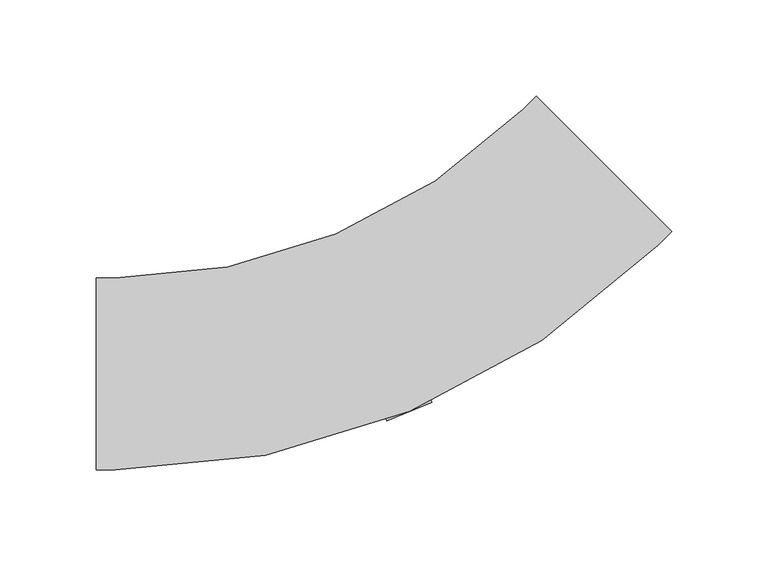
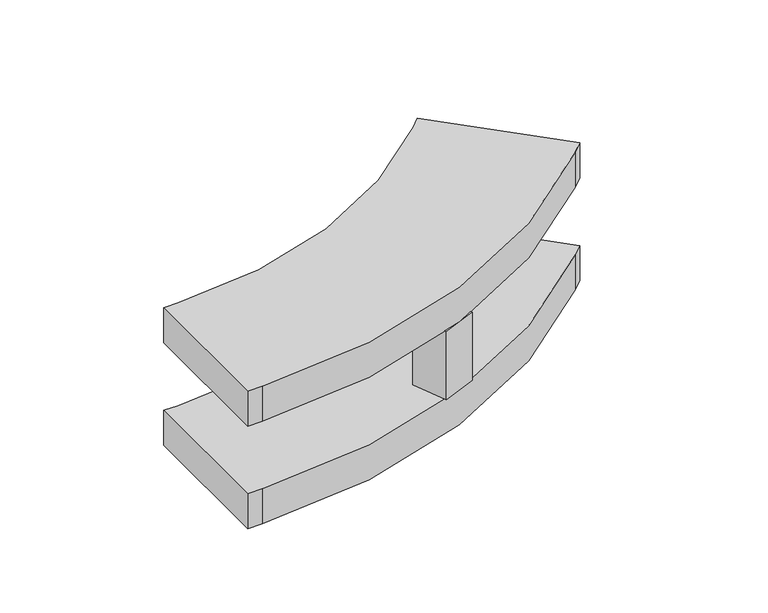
"""IFC4 building model written with IfcOpenShell, lengths in millimetres: cable carrier fitting geometry, ADSK_Поворот вертикальный внутренний_Лестничный лоток : Радиус 300 мм."""

from ifc_helpers import new_model, si_unit, point, frame, frame_2d, origin, place, context, project, spatial, polyline, circle_curve, trimmed, segment, composite_curve, outline, extrude, source, transform, mapped, element, save


def cable_carrier_fitting_9748d520(model_context):
    return source(origin(), model_context, "Body", "SweptSolid", [
        extrude(outline(polyline([(10.111737, 8.7748067), (19.8318962, -14.6917334), (-3.6346439, -24.4118926), (-13.3548031, -0.9453525), (10.111737, 8.7748067)])), frame((0.0, 0.0, -24.6), z_axis=(0.0, 0.0, 1.0), x_axis=(1.0, 0.0, 0.0)), (0.0, 0.0, 1.0), 49.2),
        extrude(outline(composite_curve([segment(polyline([(-154.9747468, -50.0), (-154.9747468, 50.0), (-144.9747468, 50.0)]), True, "CONTINUOUS"), segment(trimmed(circle_curve(frame_2d((-144.9747468, 350.0)), 300.0), [point((-144.9747468, 50.0))], [point((67.1572875, 137.8679656))], True, "CARTESIAN"), True, "CONTINUOUS"), segment(polyline([(67.1572875, 137.8679656), (74.2283553, 144.9390335), (144.9390335, 74.2283553), (137.8679656, 67.1572875)]), True, "CONTINUOUS"), segment(trimmed(circle_curve(frame_2d((-144.9747468, 350.0)), 400.0), [point((137.8679656, 67.1572875))], [point((-144.9747468, -50.0))], False, "CARTESIAN"), True, "CONTINUOUS"), segment(polyline([(-144.9747468, -50.0), (-154.9747468, -50.0)]), True, "CONTINUOUS")], self_intersect=False)), frame((0.0, 0.0, 24.6), z_axis=(0.0, 0.0, 1.0), x_axis=(1.0, 0.0, 0.0)), (0.0, 0.0, 1.0), 25.4),
        extrude(outline(composite_curve([segment(polyline([(-154.9747468, -50.0), (-154.9747468, 50.0), (-144.9747468, 50.0)]), True, "CONTINUOUS"), segment(trimmed(circle_curve(frame_2d((-144.9747468, 350.0)), 300.0), [point((-144.9747468, 50.0))], [point((67.1572875, 137.8679656))], True, "CARTESIAN"), True, "CONTINUOUS"), segment(polyline([(67.1572875, 137.8679656), (74.2283553, 144.9390335), (144.9390335, 74.2283553), (137.8679656, 67.1572875)]), True, "CONTINUOUS"), segment(trimmed(circle_curve(frame_2d((-144.9747468, 350.0)), 400.0), [point((137.8679656, 67.1572875))], [point((-144.9747468, -50.0))], False, "CARTESIAN"), True, "CONTINUOUS"), segment(polyline([(-144.9747468, -50.0), (-154.9747468, -50.0)]), True, "CONTINUOUS")], self_intersect=False)), frame((0.0, 0.0, -50.0), z_axis=(0.0, 0.0, 1.0), x_axis=(1.0, 0.0, 0.0)), (0.0, 0.0, 1.0), 25.4),
    ])


if __name__ == "__main__":
    model = new_model("IFC4")
    model_context = context("Model", 3, world=origin())
    ifc_project = project(units=[si_unit("LENGTHUNIT", "METRE", prefix="MILLI")], contexts=[model_context])
    site = spatial("IfcSite", under=ifc_project)
    building = spatial("IfcBuilding", under=site)
    placement = place(None, origin())
    cable_carrier_fitting_shape = cable_carrier_fitting_9748d520(model_context)
    element("IfcCableCarrierFitting", 1, ObjectType="ADSK_Поворот вертикальный внутренний_Лестничный лоток : Радиус 300 мм", at=placement, inside=building, context=model_context, shape_type="MappedRepresentation", body=[
        mapped(cable_carrier_fitting_shape, transform((0.0, 0.0, 0.0), x_axis=(1.0, 0.0, 0.0), y_axis=(0.0, 1.0, 0.0), z_axis=(0.0, 0.0, 1.0))),
    ])
    save(model, "model.ifc")
